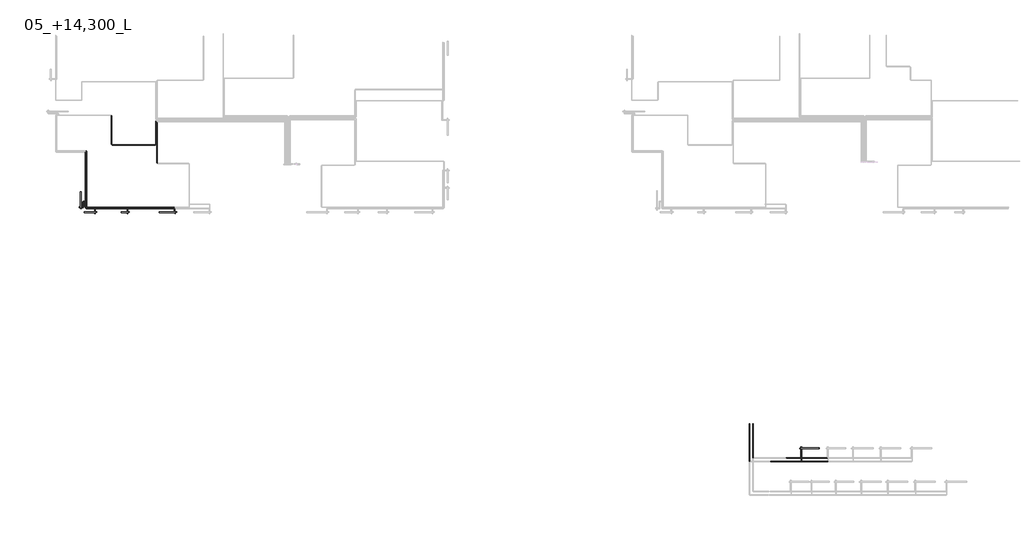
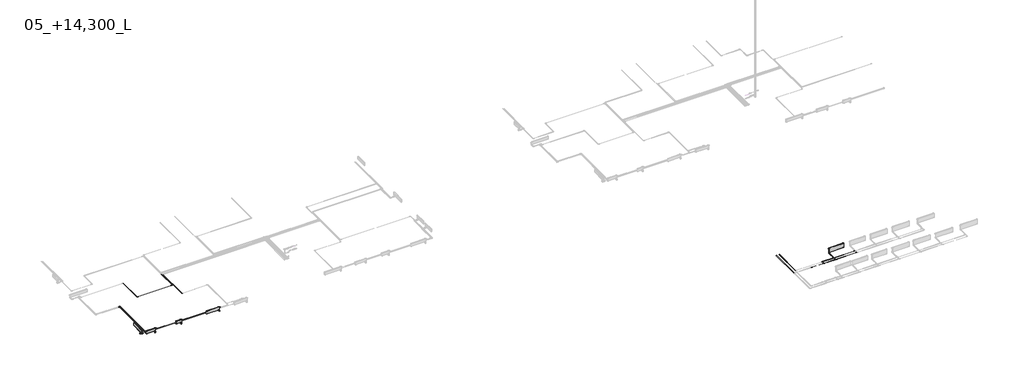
# One storey, part 2 of 15: 34 pipe segments, 28 pipe fittings, 5 proxies, 5 valves.
"""IFC4 building model written with IfcOpenShell, lengths in millimetres."""

from ifc_helpers import new_model, si_unit, point, frame, frame_2d, origin, place, context, project, spatial, circle_curve, trimmed, segment, composite_curve, outline, extrude, transform, mapped, element, save
from components import mechanical_equipment_c68842d5, mechanical_equipment_054ffeb9, mechanical_equipment_feb41a6e, mechanical_equipment_88dabea2, pipe_fitting_44bd76dc, pipe_fitting_f18aa7d6, pipe_fitting_8f811e63, pipe_fitting_d927fdfb, valve_73842d38, valve_5b696a81, valve_8453c3c0, valve_3b1922a4

model = new_model("IFC4")

# Units and contexts
model_context = context("Model", 3, world=origin())
ifc_project = project(units=[si_unit("LENGTHUNIT", "METRE", prefix="MILLI")], contexts=[model_context])

# Site, building, storey
site = spatial("IfcSite", under=ifc_project)
building = spatial("IfcBuilding", under=site)
storey = spatial("IfcBuildingStorey", under=building, Name="05_+14,300_L", Elevation=14300.0)

# Proxies
placement = place(None, origin())
mechanical_equipment_shape = mechanical_equipment_c68842d5(model_context)
element("IfcBuildingElementProxy", 1, Name="EVRA CV Д : 21-300-1400", ObjectType="EVRA CV Д : 21-300-1400", at=placement, inside=storey, context=model_context, shape_type="MappedRepresentation", body=[
    mapped(mechanical_equipment_shape, transform((61.4631102, 113460.2677163, 14300.0), x_axis=(0.0, 1.0, 0.0), y_axis=(-1.0, 0.0, 0.0), z_axis=(0.0, 0.0, 1.0))),
])
element("IfcBuildingElementProxy", 2, Name="EVRA CV Д : 21-300-1400", ObjectType="EVRA CV Д : 21-300-1400", at=placement, inside=storey, context=model_context, shape_type="MappedRepresentation", body=[
    mapped(mechanical_equipment_shape, transform((7800.0, 112561.4631102, 14300.0), x_axis=(-1.0, 0.0, 0.0), y_axis=(0.0, -1.0, 0.0), z_axis=(0.0, 0.0, 1.0))),
])
mechanical_equipment_2_shape = mechanical_equipment_054ffeb9(model_context)
element("IfcBuildingElementProxy", 3, Name="EVRA CV Д : 21-300-1000", ObjectType="EVRA CV Д : 21-300-1000", at=placement, inside=storey, context=model_context, shape_type="MappedRepresentation", body=[
    mapped(mechanical_equipment_2_shape, transform((1080.0, 112561.4631102, 14300.0), x_axis=(-1.0, 0.0, 0.0), y_axis=(0.0, -1.0, 0.0), z_axis=(0.0, 0.0, 1.0))),
])
mechanical_equipment_3_shape = mechanical_equipment_feb41a6e(model_context)
element("IfcBuildingElementProxy", 4, Name="EVRA CV Д : 21-300-600", ObjectType="EVRA CV Д : 21-300-600", at=placement, inside=storey, context=model_context, shape_type="MappedRepresentation", body=[
    mapped(mechanical_equipment_3_shape, transform((4100.0, 112561.4631102, 14300.0), x_axis=(-1.0, 0.0, 0.0), y_axis=(0.0, -1.0, 0.0), z_axis=(0.0, 0.0, 1.0))),
])
mechanical_equipment_4_shape = mechanical_equipment_88dabea2(model_context)
element("IfcBuildingElementProxy", 5, Name="EVRA CV Д : 11-500-1600", ObjectType="EVRA CV Д : 11-500-1600", at=placement, inside=storey, context=model_context, shape_type="MappedRepresentation", body=[
    mapped(mechanical_equipment_4_shape, transform((63135.0, 92114.7933297, 14300.0), x_axis=(1.0, 0.0, 0.0), y_axis=(0.0, 1.0, 0.0), z_axis=(0.0, 0.0, 1.0))),
])

# Pipe fittings
pipe_fitting_shape = pipe_fitting_44bd76dc(model_context)
element("IfcPipeFitting", 6, ObjectType="ADSK_Пресс-фитинг ПЭ_Тройник : Пластик черный", at=placement, inside=storey, context=model_context, shape_type="MappedRepresentation", body=[
    mapped(pipe_fitting_shape, transform((499.9999998, 113540.2677163, 14250.0), x_axis=(0.0, -1.0, 0.0), y_axis=(1.0, 0.0, 0.0), z_axis=(0.0, 0.0, 1.0))),
])
element("IfcPipeFitting", 7, ObjectType="ADSK_Пресс-фитинг ПЭ_Тройник : Пластик черный", at=placement, inside=storey, context=model_context, shape_type="MappedRepresentation", body=[
    mapped(pipe_fitting_shape, transform((599.9999998, 113490.2677163, 14250.0), x_axis=(0.0, -1.0, 0.0), y_axis=(1.0, 0.0, 0.0), z_axis=(0.0, 0.0, 1.0))),
])
element("IfcPipeFitting", 8, ObjectType="ADSK_Пресс-фитинг ПЭ_Тройник : Пластик черный", at=placement, inside=storey, context=model_context, shape_type="MappedRepresentation", body=[
    mapped(pipe_fitting_shape, transform((4170.0, 113000.0, 14250.0), x_axis=(1.0, 0.0, 0.0), y_axis=(0.0, 1.0, 0.0), z_axis=(0.0, 0.0, 1.0))),
])
element("IfcPipeFitting", 9, ObjectType="ADSK_Пресс-фитинг ПЭ_Тройник : Пластик черный", at=placement, inside=storey, context=model_context, shape_type="MappedRepresentation", body=[
    mapped(pipe_fitting_shape, transform((4120.0, 112900.0, 14250.0), x_axis=(1.0, 0.0, 0.0), y_axis=(0.0, 1.0, 0.0), z_axis=(0.0, 0.0, 1.0))),
])
element("IfcPipeFitting", 10, ObjectType="ADSK_Пресс-фитинг ПЭ_Тройник : Пластик черный", at=placement, inside=storey, context=model_context, shape_type="MappedRepresentation", body=[
    mapped(pipe_fitting_shape, transform((1350.0, 113000.0, 14250.0), x_axis=(1.0, 0.0, 0.0), y_axis=(0.0, 1.0, 0.0), z_axis=(0.0, 0.0, 1.0))),
])
element("IfcPipeFitting", 11, ObjectType="ADSK_Пресс-фитинг ПЭ_Тройник : Пластик черный", at=placement, inside=storey, context=model_context, shape_type="MappedRepresentation", body=[
    mapped(pipe_fitting_shape, transform((1300.0, 112900.0, 14250.0), x_axis=(1.0, 0.0, 0.0), y_axis=(0.0, 1.0, 0.0), z_axis=(0.0, 0.0, 1.0))),
])
pipe_fitting_2_shape = pipe_fitting_f18aa7d6(model_context)
element("IfcPipeFitting", 12, ObjectType="ADSK_Пресс-фитинг ПЭ_Муфта соединительная : Пластик черный", at=placement, inside=storey, context=model_context, shape_type="MappedRepresentation", body=[
    mapped(pipe_fitting_2_shape, transform((61315.0, 91249.2564399, 14250.0), x_axis=(-1.0, 0.0, 0.0), y_axis=(0.0, -1.0, 0.0), z_axis=(0.0, 0.0, 1.0))),
])
element("IfcPipeFitting", 13, ObjectType="ADSK_Пресс-фитинг ПЭ_Муфта соединительная : Пластик черный", at=placement, inside=storey, context=model_context, shape_type="MappedRepresentation", body=[
    mapped(pipe_fitting_2_shape, transform((61315.0, 90949.2564399, 14250.0), x_axis=(-1.0, 0.0, 0.0), y_axis=(0.0, -1.0, 0.0), z_axis=(0.0, 0.0, 1.0))),
])
pipe_fitting_3_shape = pipe_fitting_8f811e63(model_context)
element("IfcPipeFitting", 14, ObjectType="ADSK_Пресс-фитинг ПЭ_Поворот с фиксатором : Поворот трубы", at=placement, inside=storey, context=model_context, shape_type="MappedRepresentation", body=[
    mapped(pipe_fitting_3_shape, transform((599.9999998, 113000.0, 14250.0), x_axis=(0.0, -1.0, 0.0), y_axis=(1.0, 0.0, 0.0), z_axis=(0.0, 0.0, 1.0))),
])
element("IfcPipeFitting", 15, ObjectType="ADSK_Пресс-фитинг ПЭ_Поворот с фиксатором : Поворот трубы", at=placement, inside=storey, context=model_context, shape_type="MappedRepresentation", body=[
    mapped(pipe_fitting_3_shape, transform((499.9999998, 112900.0, 14250.0), x_axis=(0.0, -1.0, 0.0), y_axis=(1.0, 0.0, 0.0), z_axis=(0.0, 0.0, 1.0))),
])
element("IfcPipeFitting", 16, ObjectType="ADSK_Пресс-фитинг ПЭ_Поворот с фиксатором : Поворот трубы", at=placement, inside=storey, context=model_context, shape_type="MappedRepresentation", body=[
    mapped(pipe_fitting_3_shape, transform((277.0, 113540.2677163, 14250.0), x_axis=(-1.0, 0.0, 0.0), y_axis=(0.0, -1.0, 0.0), z_axis=(0.0, 0.0, 1.0))),
])
element("IfcPipeFitting", 17, ObjectType="ADSK_Пресс-фитинг ПЭ_Поворот с фиксатором : Поворот трубы", at=placement, inside=storey, context=model_context, shape_type="MappedRepresentation", body=[
    mapped(pipe_fitting_3_shape, transform((327.0, 113490.2677163, 14250.0), x_axis=(-1.0, 0.0, 0.0), y_axis=(0.0, -1.0, 0.0), z_axis=(0.0, 0.0, 1.0))),
])
element("IfcPipeFitting", 18, ObjectType="ADSK_Пресс-фитинг ПЭ_Поворот с фиксатором : Поворот трубы", at=placement, inside=storey, context=model_context, shape_type="MappedRepresentation", body=[
    mapped(pipe_fitting_3_shape, transform((6700.0, 116805.0000002, 14250.0), x_axis=(0.0, -1.0, 0.0), y_axis=(1.0, 0.0, 0.0), z_axis=(0.0, 0.0, 1.0))),
])
element("IfcPipeFitting", 19, ObjectType="ADSK_Пресс-фитинг ПЭ_Поворот с фиксатором : Поворот трубы", at=placement, inside=storey, context=model_context, shape_type="MappedRepresentation", body=[
    mapped(pipe_fitting_3_shape, transform((6600.0, 118420.0, 14250.0), x_axis=(1.0, 0.0, 0.0), y_axis=(0.0, 1.0, 0.0), z_axis=(0.0, 0.0, 1.0))),
])
element("IfcPipeFitting", 20, ObjectType="ADSK_Пресс-фитинг ПЭ_Поворот с фиксатором : Поворот трубы", at=placement, inside=storey, context=model_context, shape_type="MappedRepresentation", body=[
    mapped(pipe_fitting_3_shape, transform((2749.0000003, 118420.0, 14250.0), x_axis=(0.0, -1.0, 0.0), y_axis=(1.0, 0.0, 0.0), z_axis=(0.0, 0.0, 1.0))),
])
element("IfcPipeFitting", 21, ObjectType="ADSK_Пресс-фитинг ПЭ_Поворот с фиксатором : Поворот трубы", at=placement, inside=storey, context=model_context, shape_type="MappedRepresentation", body=[
    mapped(pipe_fitting_3_shape, transform((499.9999998, 117800.0000002, 14250.0), x_axis=(0.0, 1.0, 0.0), y_axis=(-1.0, 0.0, 0.0), z_axis=(0.0, 0.0, 1.0))),
])
element("IfcPipeFitting", 22, ObjectType="ADSK_Пресс-фитинг ПЭ_Поворот с фиксатором : Поворот трубы", at=placement, inside=storey, context=model_context, shape_type="MappedRepresentation", body=[
    mapped(pipe_fitting_3_shape, transform((599.9999998, 117900.0000002, 14250.0), x_axis=(0.0, 1.0, 0.0), y_axis=(-1.0, 0.0, 0.0), z_axis=(0.0, 0.0, 1.0))),
])
element("IfcPipeFitting", 23, ObjectType="ADSK_Пресс-фитинг ПЭ_Поворот с фиксатором : Поворот трубы", at=placement, inside=storey, context=model_context, shape_type="MappedRepresentation", body=[
    mapped(pipe_fitting_3_shape, transform((277.0, 113040.2677163, 14250.0), x_axis=(1.0, 0.0, 0.0), y_axis=(0.0, 1.0, 0.0), z_axis=(0.0, 0.0, 1.0))),
])
element("IfcPipeFitting", 24, ObjectType="ADSK_Пресс-фитинг ПЭ_Поворот с фиксатором : Поворот трубы", at=placement, inside=storey, context=model_context, shape_type="MappedRepresentation", body=[
    mapped(pipe_fitting_3_shape, transform((327.0, 112990.2677163, 14250.0), x_axis=(1.0, 0.0, 0.0), y_axis=(0.0, 1.0, 0.0), z_axis=(0.0, 0.0, 1.0))),
])
pipe_fitting_4_shape = pipe_fitting_d927fdfb(model_context)
element("IfcPipeFitting", 25, ObjectType="Трубка Г-образная VTm.481.PC из стены : VTm.481.PC", at=placement, inside=storey, context=model_context, shape_type="MappedRepresentation", body=[
    mapped(pipe_fitting_4_shape, transform((1350.0, 112512.0, 14250.0), x_axis=(-1.0, 0.0, 0.0), y_axis=(0.0, -1.0, 0.0), z_axis=(0.0, 0.0, 1.0))),
])
element("IfcPipeFitting", 26, ObjectType="Трубка Г-образная VTm.481.PC из стены : VTm.481.PC", at=placement, inside=storey, context=model_context, shape_type="MappedRepresentation", body=[
    mapped(pipe_fitting_4_shape, transform((12.0, 112990.2677163, 14250.0), x_axis=(0.0, 1.0, 0.0), y_axis=(-1.0, 0.0, 0.0), z_axis=(0.0, 0.0, 1.0))),
])
element("IfcPipeFitting", 27, ObjectType="Трубка Г-образная VTm.481.PC из стены : VTm.481.PC", at=placement, inside=storey, context=model_context, shape_type="MappedRepresentation", body=[
    mapped(pipe_fitting_4_shape, transform((8270.0, 112512.0, 14250.0), x_axis=(-1.0, 0.0, 0.0), y_axis=(0.0, -1.0, 0.0), z_axis=(0.0, 0.0, 1.0))),
])
element("IfcPipeFitting", 28, ObjectType="Трубка Г-образная VTm.481.PC из стены : VTm.481.PC", at=placement, inside=storey, context=model_context, shape_type="MappedRepresentation", body=[
    mapped(pipe_fitting_4_shape, transform((4170.0, 112512.0, 14250.0), x_axis=(-1.0, 0.0, 0.0), y_axis=(0.0, -1.0, 0.0), z_axis=(0.0, 0.0, 1.0))),
])
element("IfcPipeFitting", 29, ObjectType="Трубка Г-образная VTm.481.PC из стены : VTm.481.PC", at=placement, inside=storey, context=model_context, shape_type="MappedRepresentation", body=[
    mapped(pipe_fitting_4_shape, transform((12.0, 113040.2677163, 14250.0), x_axis=(0.0, 1.0, 0.0), y_axis=(-1.0, 0.0, 0.0), z_axis=(0.0, 0.0, 1.0))),
])
element("IfcPipeFitting", 30, ObjectType="Трубка Г-образная VTm.481.PC из стены : VTm.481.PC", at=placement, inside=storey, context=model_context, shape_type="MappedRepresentation", body=[
    mapped(pipe_fitting_4_shape, transform((1300.0, 112512.0, 14250.0), x_axis=(-1.0, 0.0, 0.0), y_axis=(0.0, -1.0, 0.0), z_axis=(0.0, 0.0, 1.0))),
])
element("IfcPipeFitting", 31, ObjectType="Трубка Г-образная VTm.481.PC из стены : VTm.481.PC", at=placement, inside=storey, context=model_context, shape_type="MappedRepresentation", body=[
    mapped(pipe_fitting_4_shape, transform((4120.0, 112512.0, 14250.0), x_axis=(-1.0, 0.0, 0.0), y_axis=(0.0, -1.0, 0.0), z_axis=(0.0, 0.0, 1.0))),
])
element("IfcPipeFitting", 32, ObjectType="Трубка Г-образная VTm.481.PC из стены : VTm.481.PC", at=placement, inside=storey, context=model_context, shape_type="MappedRepresentation", body=[
    mapped(pipe_fitting_4_shape, transform((62565.0, 92164.2564399, 14250.0), x_axis=(1.0, 0.0, 0.0), y_axis=(0.0, 1.0, 0.0), z_axis=(0.0, 0.0, 1.0))),
])
element("IfcPipeFitting", 33, ObjectType="Трубка Г-образная VTm.481.PC из стены : VTm.481.PC", at=placement, inside=storey, context=model_context, shape_type="MappedRepresentation", body=[
    mapped(pipe_fitting_4_shape, transform((62615.0, 92164.2564399, 14250.0), x_axis=(1.0, 0.0, 0.0), y_axis=(0.0, 1.0, 0.0), z_axis=(0.0, 0.0, 1.0))),
])

# Pipe segments
element("IfcPipeSegment", 34, ObjectType="ADSK_Полиэтилен сшитый", at=placement, inside=storey, context=model_context, shape_type="SweptSolid", body=[
    extrude(outline(composite_curve([segment(trimmed(circle_curve(frame_2d((14250.0, 499.9999998)), 8.0), [point((14250.0, 491.9999998))], [point((14242.0, 499.9999998))], False, "CARTESIAN"), True, "CONTINUOUS"), segment(trimmed(circle_curve(frame_2d((14250.0, 499.9999998)), 8.0), [point((14242.0, 499.9999998))], [point((14250.0, 507.9999998))], False, "CARTESIAN"), True, "CONTINUOUS"), segment(trimmed(circle_curve(frame_2d((14250.0, 499.9999998)), 8.0), [point((14250.0, 507.9999998))], [point((14258.0, 499.9999998))], False, "CARTESIAN"), True, "CONTINUOUS"), segment(trimmed(circle_curve(frame_2d((14250.0, 499.9999998)), 8.0), [point((14258.0, 499.9999998))], [point((14250.0, 491.9999998))], False, "CARTESIAN"), True, "CONTINUOUS")], self_intersect=False)), frame((0.0, 112948.0, 0.0), z_axis=(0.0, 1.0, 0.0), x_axis=(0.0, 0.0, 1.0)), (0.0, 0.0, 1.0), 573.2677163),
])
element("IfcPipeSegment", 35, ObjectType="ADSK_Полиэтилен сшитый", at=placement, inside=storey, context=model_context, shape_type="SweptSolid", body=[
    extrude(outline(composite_curve([segment(trimmed(circle_curve(frame_2d((14250.0, 6600.0)), 8.0), [point((14250.0, 6592.0))], [point((14242.0, 6600.0))], False, "CARTESIAN"), True, "CONTINUOUS"), segment(trimmed(circle_curve(frame_2d((14250.0, 6600.0)), 8.0), [point((14242.0, 6600.0))], [point((14250.0, 6608.0))], False, "CARTESIAN"), True, "CONTINUOUS"), segment(trimmed(circle_curve(frame_2d((14250.0, 6600.0)), 8.0), [point((14250.0, 6608.0))], [point((14258.0, 6600.0))], False, "CARTESIAN"), True, "CONTINUOUS"), segment(trimmed(circle_curve(frame_2d((14250.0, 6600.0)), 8.0), [point((14258.0, 6600.0))], [point((14250.0, 6592.0))], False, "CARTESIAN"), True, "CONTINUOUS")], self_intersect=False)), frame((0.0, 118468.0, 0.0), z_axis=(0.0, 1.0, 0.0), x_axis=(0.0, 0.0, 1.0)), (0.0, 0.0, 1.0), 2005.8369308),
])
element("IfcPipeSegment", 36, ObjectType="ADSK_Полиэтилен сшитый", at=placement, inside=storey, context=model_context, shape_type="SweptSolid", body=[
    extrude(outline(composite_curve([segment(trimmed(circle_curve(frame_2d((14250.0, 6700.0)), 8.0), [point((14250.0, 6692.0))], [point((14242.0, 6700.0))], False, "CARTESIAN"), True, "CONTINUOUS"), segment(trimmed(circle_curve(frame_2d((14250.0, 6700.0)), 8.0), [point((14242.0, 6700.0))], [point((14250.0, 6708.0))], False, "CARTESIAN"), True, "CONTINUOUS"), segment(trimmed(circle_curve(frame_2d((14250.0, 6700.0)), 8.0), [point((14250.0, 6708.0))], [point((14258.0, 6700.0))], False, "CARTESIAN"), True, "CONTINUOUS"), segment(trimmed(circle_curve(frame_2d((14250.0, 6700.0)), 8.0), [point((14258.0, 6700.0))], [point((14250.0, 6692.0))], False, "CARTESIAN"), True, "CONTINUOUS")], self_intersect=False)), frame((0.0, 116853.0000002, 0.0), z_axis=(0.0, 1.0, 0.0), x_axis=(0.0, 0.0, 1.0)), (0.0, 0.0, 1.0), 3520.8369306),
])
element("IfcPipeSegment", 37, ObjectType="ADSK_Полиэтилен сшитый", at=placement, inside=storey, context=model_context, shape_type="SweptSolid", body=[
    extrude(outline(composite_curve([segment(trimmed(circle_curve(frame_2d((14250.0, 8220.0)), 8.0), [point((14250.0, 8212.0))], [point((14242.0, 8220.0))], False, "CARTESIAN"), True, "CONTINUOUS"), segment(trimmed(circle_curve(frame_2d((14250.0, 8220.0)), 8.0), [point((14242.0, 8220.0))], [point((14250.0, 8228.0))], False, "CARTESIAN"), True, "CONTINUOUS"), segment(trimmed(circle_curve(frame_2d((14250.0, 8220.0)), 8.0), [point((14250.0, 8228.0))], [point((14258.0, 8220.0))], False, "CARTESIAN"), True, "CONTINUOUS"), segment(trimmed(circle_curve(frame_2d((14250.0, 8220.0)), 8.0), [point((14258.0, 8220.0))], [point((14250.0, 8212.0))], False, "CARTESIAN"), True, "CONTINUOUS")], self_intersect=False)), frame((0.0, 112627.0, 0.0), z_axis=(0.0, 1.0, 0.0), x_axis=(0.0, 0.0, 1.0)), (0.0, 0.0, 1.0), 249.0),
])
element("IfcPipeSegment", 38, ObjectType="ADSK_Полиэтилен сшитый", at=placement, inside=storey, context=model_context, shape_type="SweptSolid", body=[
    extrude(outline(composite_curve([segment(trimmed(circle_curve(frame_2d((14250.0, 1350.0)), 8.0), [point((14250.0, 1342.0))], [point((14242.0, 1350.0))], False, "CARTESIAN"), True, "CONTINUOUS"), segment(trimmed(circle_curve(frame_2d((14250.0, 1350.0)), 8.0), [point((14242.0, 1350.0))], [point((14250.0, 1358.0))], False, "CARTESIAN"), True, "CONTINUOUS"), segment(trimmed(circle_curve(frame_2d((14250.0, 1350.0)), 8.0), [point((14250.0, 1358.0))], [point((14258.0, 1350.0))], False, "CARTESIAN"), True, "CONTINUOUS"), segment(trimmed(circle_curve(frame_2d((14250.0, 1350.0)), 8.0), [point((14258.0, 1350.0))], [point((14250.0, 1342.0))], False, "CARTESIAN"), True, "CONTINUOUS")], self_intersect=False)), frame((0.0, 112627.0, 0.0), z_axis=(0.0, 1.0, 0.0), x_axis=(0.0, 0.0, 1.0)), (0.0, 0.0, 1.0), 349.0),
])
element("IfcPipeSegment", 39, ObjectType="ADSK_Полиэтилен сшитый", at=placement, inside=storey, context=model_context, shape_type="SweptSolid", body=[
    extrude(outline(composite_curve([segment(trimmed(circle_curve(frame_2d((113000.0, 14250.0)), 8.0), [point((113008.0, 14250.0))], [point((113000.0, 14242.0))], False, "CARTESIAN"), True, "CONTINUOUS"), segment(trimmed(circle_curve(frame_2d((113000.0, 14250.0)), 8.0), [point((113000.0, 14242.0))], [point((112992.0, 14250.0))], False, "CARTESIAN"), True, "CONTINUOUS"), segment(trimmed(circle_curve(frame_2d((113000.0, 14250.0)), 8.0), [point((112992.0, 14250.0))], [point((113000.0, 14258.0))], False, "CARTESIAN"), True, "CONTINUOUS"), segment(trimmed(circle_curve(frame_2d((113000.0, 14250.0)), 8.0), [point((113000.0, 14258.0))], [point((113008.0, 14250.0))], False, "CARTESIAN"), True, "CONTINUOUS")], self_intersect=False)), frame((647.9999998, 0.0, 0.0), z_axis=(1.0, 0.0, 0.0), x_axis=(0.0, 1.0, 0.0)), (0.0, 0.0, 1.0), 682.0000002),
])
element("IfcPipeSegment", 40, ObjectType="ADSK_Полиэтилен сшитый", at=placement, inside=storey, context=model_context, shape_type="SweptSolid", body=[
    extrude(outline(composite_curve([segment(trimmed(circle_curve(frame_2d((14250.0, 1300.0)), 8.0), [point((14250.0, 1292.0))], [point((14242.0, 1300.0))], False, "CARTESIAN"), True, "CONTINUOUS"), segment(trimmed(circle_curve(frame_2d((14250.0, 1300.0)), 8.0), [point((14242.0, 1300.0))], [point((14250.0, 1308.0))], False, "CARTESIAN"), True, "CONTINUOUS"), segment(trimmed(circle_curve(frame_2d((14250.0, 1300.0)), 8.0), [point((14250.0, 1308.0))], [point((14258.0, 1300.0))], False, "CARTESIAN"), True, "CONTINUOUS"), segment(trimmed(circle_curve(frame_2d((14250.0, 1300.0)), 8.0), [point((14258.0, 1300.0))], [point((14250.0, 1292.0))], False, "CARTESIAN"), True, "CONTINUOUS")], self_intersect=False)), frame((0.0, 112627.0, 0.0), z_axis=(0.0, 1.0, 0.0), x_axis=(0.0, 0.0, 1.0)), (0.0, 0.0, 1.0), 249.0),
])
element("IfcPipeSegment", 41, ObjectType="ADSK_Полиэтилен сшитый", at=placement, inside=storey, context=model_context, shape_type="SweptSolid", body=[
    extrude(outline(composite_curve([segment(trimmed(circle_curve(frame_2d((113040.2677163, 14250.0)), 8.0), [point((113048.2677163, 14250.0))], [point((113040.2677163, 14242.0))], False, "CARTESIAN"), True, "CONTINUOUS"), segment(trimmed(circle_curve(frame_2d((113040.2677163, 14250.0)), 8.0), [point((113040.2677163, 14242.0))], [point((113032.2677163, 14250.0))], False, "CARTESIAN"), True, "CONTINUOUS"), segment(trimmed(circle_curve(frame_2d((113040.2677163, 14250.0)), 8.0), [point((113032.2677163, 14250.0))], [point((113040.2677163, 14258.0))], False, "CARTESIAN"), True, "CONTINUOUS"), segment(trimmed(circle_curve(frame_2d((113040.2677163, 14250.0)), 8.0), [point((113040.2677163, 14258.0))], [point((113048.2677163, 14250.0))], False, "CARTESIAN"), True, "CONTINUOUS")], self_intersect=False)), frame((127.0, 0.0, 0.0), z_axis=(1.0, 0.0, 0.0), x_axis=(0.0, 1.0, 0.0)), (0.0, 0.0, 1.0), 102.0),
])
element("IfcPipeSegment", 42, ObjectType="ADSK_Полиэтилен сшитый", at=placement, inside=storey, context=model_context, shape_type="SweptSolid", body=[
    extrude(outline(composite_curve([segment(trimmed(circle_curve(frame_2d((14250.0, 277.0)), 8.0), [point((14250.0, 285.0))], [point((14258.0, 277.0))], False, "CARTESIAN"), True, "CONTINUOUS"), segment(trimmed(circle_curve(frame_2d((14250.0, 277.0)), 8.0), [point((14258.0, 277.0))], [point((14250.0, 269.0))], False, "CARTESIAN"), True, "CONTINUOUS"), segment(trimmed(circle_curve(frame_2d((14250.0, 277.0)), 8.0), [point((14250.0, 269.0))], [point((14242.0, 277.0))], False, "CARTESIAN"), True, "CONTINUOUS"), segment(trimmed(circle_curve(frame_2d((14250.0, 277.0)), 8.0), [point((14242.0, 277.0))], [point((14250.0, 285.0))], False, "CARTESIAN"), True, "CONTINUOUS")], self_intersect=False)), frame((0.0, 113088.2677163, 0.0), z_axis=(0.0, 1.0, 0.0), x_axis=(0.0, 0.0, 1.0)), (0.0, 0.0, 1.0), 404.0),
])
element("IfcPipeSegment", 43, ObjectType="ADSK_Полиэтилен сшитый", at=placement, inside=storey, context=model_context, shape_type="SweptSolid", body=[
    extrude(outline(composite_curve([segment(trimmed(circle_curve(frame_2d((113540.2677163, 14250.0)), 8.0), [point((113548.2677163, 14250.0))], [point((113540.2677163, 14242.0))], False, "CARTESIAN"), True, "CONTINUOUS"), segment(trimmed(circle_curve(frame_2d((113540.2677163, 14250.0)), 8.0), [point((113540.2677163, 14242.0))], [point((113532.2677163, 14250.0))], False, "CARTESIAN"), True, "CONTINUOUS"), segment(trimmed(circle_curve(frame_2d((113540.2677163, 14250.0)), 8.0), [point((113532.2677163, 14250.0))], [point((113540.2677163, 14258.0))], False, "CARTESIAN"), True, "CONTINUOUS"), segment(trimmed(circle_curve(frame_2d((113540.2677163, 14250.0)), 8.0), [point((113540.2677163, 14258.0))], [point((113548.2677163, 14250.0))], False, "CARTESIAN"), True, "CONTINUOUS")], self_intersect=False)), frame((325.0, 0.0, 0.0), z_axis=(1.0, 0.0, 0.0), x_axis=(0.0, 1.0, 0.0)), (0.0, 0.0, 1.0), 148.9999998),
])
element("IfcPipeSegment", 44, ObjectType="ADSK_Полиэтилен сшитый", at=placement, inside=storey, context=model_context, shape_type="SweptSolid", body=[
    extrude(outline(composite_curve([segment(trimmed(circle_curve(frame_2d((112990.2677163, 14250.0)), 8.0), [point((112998.2677163, 14250.0))], [point((112990.2677163, 14242.0))], False, "CARTESIAN"), True, "CONTINUOUS"), segment(trimmed(circle_curve(frame_2d((112990.2677163, 14250.0)), 8.0), [point((112990.2677163, 14242.0))], [point((112982.2677163, 14250.0))], False, "CARTESIAN"), True, "CONTINUOUS"), segment(trimmed(circle_curve(frame_2d((112990.2677163, 14250.0)), 8.0), [point((112982.2677163, 14250.0))], [point((112990.2677163, 14258.0))], False, "CARTESIAN"), True, "CONTINUOUS"), segment(trimmed(circle_curve(frame_2d((112990.2677163, 14250.0)), 8.0), [point((112990.2677163, 14258.0))], [point((112998.2677163, 14250.0))], False, "CARTESIAN"), True, "CONTINUOUS")], self_intersect=False)), frame((127.0, 0.0, 0.0), z_axis=(1.0, 0.0, 0.0), x_axis=(0.0, 1.0, 0.0)), (0.0, 0.0, 1.0), 152.0),
])
element("IfcPipeSegment", 45, ObjectType="ADSK_Полиэтилен сшитый", at=placement, inside=storey, context=model_context, shape_type="SweptSolid", body=[
    extrude(outline(composite_curve([segment(trimmed(circle_curve(frame_2d((14250.0, 327.0)), 8.0), [point((14250.0, 335.0))], [point((14258.0, 327.0))], False, "CARTESIAN"), True, "CONTINUOUS"), segment(trimmed(circle_curve(frame_2d((14250.0, 327.0)), 8.0), [point((14258.0, 327.0))], [point((14250.0, 319.0))], False, "CARTESIAN"), True, "CONTINUOUS"), segment(trimmed(circle_curve(frame_2d((14250.0, 327.0)), 8.0), [point((14250.0, 319.0))], [point((14242.0, 327.0))], False, "CARTESIAN"), True, "CONTINUOUS"), segment(trimmed(circle_curve(frame_2d((14250.0, 327.0)), 8.0), [point((14242.0, 327.0))], [point((14250.0, 335.0))], False, "CARTESIAN"), True, "CONTINUOUS")], self_intersect=False)), frame((0.0, 113038.2677163, 0.0), z_axis=(0.0, 1.0, 0.0), x_axis=(0.0, 0.0, 1.0)), (0.0, 0.0, 1.0), 404.0),
])
element("IfcPipeSegment", 46, ObjectType="ADSK_Полиэтилен сшитый", at=placement, inside=storey, context=model_context, shape_type="SweptSolid", body=[
    extrude(outline(composite_curve([segment(trimmed(circle_curve(frame_2d((113490.2677163, 14250.0)), 8.0), [point((113498.2677163, 14250.0))], [point((113490.2677163, 14242.0))], False, "CARTESIAN"), True, "CONTINUOUS"), segment(trimmed(circle_curve(frame_2d((113490.2677163, 14250.0)), 8.0), [point((113490.2677163, 14242.0))], [point((113482.2677163, 14250.0))], False, "CARTESIAN"), True, "CONTINUOUS"), segment(trimmed(circle_curve(frame_2d((113490.2677163, 14250.0)), 8.0), [point((113482.2677163, 14250.0))], [point((113490.2677163, 14258.0))], False, "CARTESIAN"), True, "CONTINUOUS"), segment(trimmed(circle_curve(frame_2d((113490.2677163, 14250.0)), 8.0), [point((113490.2677163, 14258.0))], [point((113498.2677163, 14250.0))], False, "CARTESIAN"), True, "CONTINUOUS")], self_intersect=False)), frame((375.0, 0.0, 0.0), z_axis=(1.0, 0.0, 0.0), x_axis=(0.0, 1.0, 0.0)), (0.0, 0.0, 1.0), 198.9999998),
])
element("IfcPipeSegment", 47, ObjectType="ADSK_Полиэтилен сшитый", at=placement, inside=storey, context=model_context, shape_type="SweptSolid", body=[
    extrude(outline(composite_curve([segment(trimmed(circle_curve(frame_2d((14250.0, 599.9999998)), 8.0), [point((14250.0, 607.9999998))], [point((14258.0, 599.9999998))], False, "CARTESIAN"), True, "CONTINUOUS"), segment(trimmed(circle_curve(frame_2d((14250.0, 599.9999998)), 8.0), [point((14258.0, 599.9999998))], [point((14250.0, 591.9999998))], False, "CARTESIAN"), True, "CONTINUOUS"), segment(trimmed(circle_curve(frame_2d((14250.0, 599.9999998)), 8.0), [point((14250.0, 591.9999998))], [point((14242.0, 599.9999998))], False, "CARTESIAN"), True, "CONTINUOUS"), segment(trimmed(circle_curve(frame_2d((14250.0, 599.9999998)), 8.0), [point((14242.0, 599.9999998))], [point((14250.0, 607.9999998))], False, "CARTESIAN"), True, "CONTINUOUS")], self_intersect=False)), frame((0.0, 113048.0, 0.0), z_axis=(0.0, 1.0, 0.0), x_axis=(0.0, 0.0, 1.0)), (0.0, 0.0, 1.0), 423.2677163),
])
element("IfcPipeSegment", 48, ObjectType="ADSK_Полиэтилен сшитый", at=placement, inside=storey, context=model_context, shape_type="SweptSolid", body=[
    extrude(outline(composite_curve([segment(trimmed(circle_curve(frame_2d((14250.0, 499.9999998)), 8.0), [point((14250.0, 491.9999998))], [point((14242.0, 499.9999998))], False, "CARTESIAN"), True, "CONTINUOUS"), segment(trimmed(circle_curve(frame_2d((14250.0, 499.9999998)), 8.0), [point((14242.0, 499.9999998))], [point((14250.0, 507.9999998))], False, "CARTESIAN"), True, "CONTINUOUS"), segment(trimmed(circle_curve(frame_2d((14250.0, 499.9999998)), 8.0), [point((14250.0, 507.9999998))], [point((14258.0, 499.9999998))], False, "CARTESIAN"), True, "CONTINUOUS"), segment(trimmed(circle_curve(frame_2d((14250.0, 499.9999998)), 8.0), [point((14258.0, 499.9999998))], [point((14250.0, 491.9999998))], False, "CARTESIAN"), True, "CONTINUOUS")], self_intersect=False)), frame((0.0, 113559.2677163, 0.0), z_axis=(0.0, 1.0, 0.0), x_axis=(0.0, 0.0, 1.0)), (0.0, 0.0, 1.0), 4192.7322839),
])
element("IfcPipeSegment", 49, ObjectType="ADSK_Полиэтилен сшитый", at=placement, inside=storey, context=model_context, shape_type="SweptSolid", body=[
    extrude(outline(composite_curve([segment(trimmed(circle_curve(frame_2d((14250.0, 599.9999998)), 8.0), [point((14250.0, 591.9999998))], [point((14242.0, 599.9999998))], False, "CARTESIAN"), True, "CONTINUOUS"), segment(trimmed(circle_curve(frame_2d((14250.0, 599.9999998)), 8.0), [point((14242.0, 599.9999998))], [point((14250.0, 607.9999998))], False, "CARTESIAN"), True, "CONTINUOUS"), segment(trimmed(circle_curve(frame_2d((14250.0, 599.9999998)), 8.0), [point((14250.0, 607.9999998))], [point((14258.0, 599.9999998))], False, "CARTESIAN"), True, "CONTINUOUS"), segment(trimmed(circle_curve(frame_2d((14250.0, 599.9999998)), 8.0), [point((14258.0, 599.9999998))], [point((14250.0, 591.9999998))], False, "CARTESIAN"), True, "CONTINUOUS")], self_intersect=False)), frame((0.0, 113509.2677163, 0.0), z_axis=(0.0, 1.0, 0.0), x_axis=(0.0, 0.0, 1.0)), (0.0, 0.0, 1.0), 4342.7322839),
])
element("IfcPipeSegment", 50, ObjectType="ADSK_Полиэтилен сшитый", at=placement, inside=storey, context=model_context, shape_type="SweptSolid", body=[
    extrude(outline(composite_curve([segment(trimmed(circle_curve(frame_2d((118420.0, 14250.0)), 8.0), [point((118428.0, 14250.0))], [point((118420.0, 14242.0))], False, "CARTESIAN"), True, "CONTINUOUS"), segment(trimmed(circle_curve(frame_2d((118420.0, 14250.0)), 8.0), [point((118420.0, 14242.0))], [point((118412.0, 14250.0))], False, "CARTESIAN"), True, "CONTINUOUS"), segment(trimmed(circle_curve(frame_2d((118420.0, 14250.0)), 8.0), [point((118412.0, 14250.0))], [point((118420.0, 14258.0))], False, "CARTESIAN"), True, "CONTINUOUS"), segment(trimmed(circle_curve(frame_2d((118420.0, 14250.0)), 8.0), [point((118420.0, 14258.0))], [point((118428.0, 14250.0))], False, "CARTESIAN"), True, "CONTINUOUS")], self_intersect=False)), frame((2797.0000003, 0.0, 0.0), z_axis=(1.0, 0.0, 0.0), x_axis=(0.0, 1.0, 0.0)), (0.0, 0.0, 1.0), 3754.9999997),
])
element("IfcPipeSegment", 51, ObjectType="ADSK_Полиэтилен сшитый", at=placement, inside=storey, context=model_context, shape_type="SweptSolid", body=[
    extrude(outline(composite_curve([segment(trimmed(circle_curve(frame_2d((14250.0, 2749.0000003)), 8.0), [point((14250.0, 2757.0000003))], [point((14258.0, 2749.0000003))], False, "CARTESIAN"), True, "CONTINUOUS"), segment(trimmed(circle_curve(frame_2d((14250.0, 2749.0000003)), 8.0), [point((14258.0, 2749.0000003))], [point((14250.0, 2741.0000003))], False, "CARTESIAN"), True, "CONTINUOUS"), segment(trimmed(circle_curve(frame_2d((14250.0, 2749.0000003)), 8.0), [point((14250.0, 2741.0000003))], [point((14242.0, 2749.0000003))], False, "CARTESIAN"), True, "CONTINUOUS"), segment(trimmed(circle_curve(frame_2d((14250.0, 2749.0000003)), 8.0), [point((14242.0, 2749.0000003))], [point((14250.0, 2757.0000003))], False, "CARTESIAN"), True, "CONTINUOUS")], self_intersect=False)), frame((0.0, 118468.0, 0.0), z_axis=(0.0, 1.0, 0.0), x_axis=(0.0, 0.0, 1.0)), (0.0, 0.0, 1.0), 2484.0000002),
])
element("IfcPipeSegment", 52, ObjectType="ADSK_Полиэтилен сшитый", at=placement, inside=storey, context=model_context, shape_type="SweptSolid", body=[
    extrude(outline(composite_curve([segment(trimmed(circle_curve(frame_2d((112900.0, 14250.0)), 8.0), [point((112892.0, 14250.0))], [point((112900.0, 14258.0))], False, "CARTESIAN"), True, "CONTINUOUS"), segment(trimmed(circle_curve(frame_2d((112900.0, 14250.0)), 8.0), [point((112900.0, 14258.0))], [point((112908.0, 14250.0))], False, "CARTESIAN"), True, "CONTINUOUS"), segment(trimmed(circle_curve(frame_2d((112900.0, 14250.0)), 8.0), [point((112908.0, 14250.0))], [point((112900.0, 14242.0))], False, "CARTESIAN"), True, "CONTINUOUS"), segment(trimmed(circle_curve(frame_2d((112900.0, 14250.0)), 8.0), [point((112900.0, 14242.0))], [point((112892.0, 14250.0))], False, "CARTESIAN"), True, "CONTINUOUS")], self_intersect=False)), frame((4140.0, 0.0, 0.0), z_axis=(1.0, 0.0, 0.0), x_axis=(0.0, 1.0, 0.0)), (0.0, 0.0, 1.0), 4060.0),
])
element("IfcPipeSegment", 53, ObjectType="ADSK_Полиэтилен сшитый", at=placement, inside=storey, context=model_context, shape_type="SweptSolid", body=[
    extrude(outline(composite_curve([segment(trimmed(circle_curve(frame_2d((14250.0, 4170.0)), 8.0), [point((14250.0, 4162.0))], [point((14242.0, 4170.0))], False, "CARTESIAN"), True, "CONTINUOUS"), segment(trimmed(circle_curve(frame_2d((14250.0, 4170.0)), 8.0), [point((14242.0, 4170.0))], [point((14250.0, 4178.0))], False, "CARTESIAN"), True, "CONTINUOUS"), segment(trimmed(circle_curve(frame_2d((14250.0, 4170.0)), 8.0), [point((14250.0, 4178.0))], [point((14258.0, 4170.0))], False, "CARTESIAN"), True, "CONTINUOUS"), segment(trimmed(circle_curve(frame_2d((14250.0, 4170.0)), 8.0), [point((14258.0, 4170.0))], [point((14250.0, 4162.0))], False, "CARTESIAN"), True, "CONTINUOUS")], self_intersect=False)), frame((0.0, 112627.0, 0.0), z_axis=(0.0, 1.0, 0.0), x_axis=(0.0, 0.0, 1.0)), (0.0, 0.0, 1.0), 349.0),
])
element("IfcPipeSegment", 54, ObjectType="ADSK_Полиэтилен сшитый", at=placement, inside=storey, context=model_context, shape_type="SweptSolid", body=[
    extrude(outline(composite_curve([segment(trimmed(circle_curve(frame_2d((113000.0, 14250.0)), 8.0), [point((113008.0, 14250.0))], [point((113000.0, 14242.0))], False, "CARTESIAN"), True, "CONTINUOUS"), segment(trimmed(circle_curve(frame_2d((113000.0, 14250.0)), 8.0), [point((113000.0, 14242.0))], [point((112992.0, 14250.0))], False, "CARTESIAN"), True, "CONTINUOUS"), segment(trimmed(circle_curve(frame_2d((113000.0, 14250.0)), 8.0), [point((112992.0, 14250.0))], [point((113000.0, 14258.0))], False, "CARTESIAN"), True, "CONTINUOUS"), segment(trimmed(circle_curve(frame_2d((113000.0, 14250.0)), 8.0), [point((113000.0, 14258.0))], [point((113008.0, 14250.0))], False, "CARTESIAN"), True, "CONTINUOUS")], self_intersect=False)), frame((4190.0, 0.0, 0.0), z_axis=(1.0, 0.0, 0.0), x_axis=(0.0, 1.0, 0.0)), (0.0, 0.0, 1.0), 4060.0),
])
element("IfcPipeSegment", 55, ObjectType="ADSK_Полиэтилен сшитый", at=placement, inside=storey, context=model_context, shape_type="SweptSolid", body=[
    extrude(outline(composite_curve([segment(trimmed(circle_curve(frame_2d((14250.0, 4120.0)), 8.0), [point((14250.0, 4112.0))], [point((14242.0, 4120.0))], False, "CARTESIAN"), True, "CONTINUOUS"), segment(trimmed(circle_curve(frame_2d((14250.0, 4120.0)), 8.0), [point((14242.0, 4120.0))], [point((14250.0, 4128.0))], False, "CARTESIAN"), True, "CONTINUOUS"), segment(trimmed(circle_curve(frame_2d((14250.0, 4120.0)), 8.0), [point((14250.0, 4128.0))], [point((14258.0, 4120.0))], False, "CARTESIAN"), True, "CONTINUOUS"), segment(trimmed(circle_curve(frame_2d((14250.0, 4120.0)), 8.0), [point((14258.0, 4120.0))], [point((14250.0, 4112.0))], False, "CARTESIAN"), True, "CONTINUOUS")], self_intersect=False)), frame((0.0, 112627.0, 0.0), z_axis=(0.0, 1.0, 0.0), x_axis=(0.0, 0.0, 1.0)), (0.0, 0.0, 1.0), 249.0),
])
element("IfcPipeSegment", 56, ObjectType="ADSK_Полиэтилен сшитый", at=placement, inside=storey, context=model_context, shape_type="SweptSolid", body=[
    extrude(outline(composite_curve([segment(trimmed(circle_curve(frame_2d((112900.0, 14250.0)), 8.0), [point((112892.0, 14250.0))], [point((112900.0, 14258.0))], False, "CARTESIAN"), True, "CONTINUOUS"), segment(trimmed(circle_curve(frame_2d((112900.0, 14250.0)), 8.0), [point((112900.0, 14258.0))], [point((112908.0, 14250.0))], False, "CARTESIAN"), True, "CONTINUOUS"), segment(trimmed(circle_curve(frame_2d((112900.0, 14250.0)), 8.0), [point((112908.0, 14250.0))], [point((112900.0, 14242.0))], False, "CARTESIAN"), True, "CONTINUOUS"), segment(trimmed(circle_curve(frame_2d((112900.0, 14250.0)), 8.0), [point((112900.0, 14242.0))], [point((112892.0, 14250.0))], False, "CARTESIAN"), True, "CONTINUOUS")], self_intersect=False)), frame((1320.0, 0.0, 0.0), z_axis=(1.0, 0.0, 0.0), x_axis=(0.0, 1.0, 0.0)), (0.0, 0.0, 1.0), 2780.0),
])
element("IfcPipeSegment", 57, ObjectType="ADSK_Полиэтилен сшитый", at=placement, inside=storey, context=model_context, shape_type="SweptSolid", body=[
    extrude(outline(composite_curve([segment(trimmed(circle_curve(frame_2d((113000.0, 14250.0)), 8.0), [point((113008.0, 14250.0))], [point((113000.0, 14242.0))], False, "CARTESIAN"), True, "CONTINUOUS"), segment(trimmed(circle_curve(frame_2d((113000.0, 14250.0)), 8.0), [point((113000.0, 14242.0))], [point((112992.0, 14250.0))], False, "CARTESIAN"), True, "CONTINUOUS"), segment(trimmed(circle_curve(frame_2d((113000.0, 14250.0)), 8.0), [point((112992.0, 14250.0))], [point((113000.0, 14258.0))], False, "CARTESIAN"), True, "CONTINUOUS"), segment(trimmed(circle_curve(frame_2d((113000.0, 14250.0)), 8.0), [point((113000.0, 14258.0))], [point((113008.0, 14250.0))], False, "CARTESIAN"), True, "CONTINUOUS")], self_intersect=False)), frame((1370.0, 0.0, 0.0), z_axis=(1.0, 0.0, 0.0), x_axis=(0.0, 1.0, 0.0)), (0.0, 0.0, 1.0), 2780.0),
])
element("IfcPipeSegment", 58, ObjectType="ADSK_Полиэтилен сшитый", at=placement, inside=storey, context=model_context, shape_type="SweptSolid", body=[
    extrude(outline(composite_curve([segment(trimmed(circle_curve(frame_2d((112900.0, 14250.0)), 8.0), [point((112892.0, 14250.0))], [point((112900.0, 14258.0))], False, "CARTESIAN"), True, "CONTINUOUS"), segment(trimmed(circle_curve(frame_2d((112900.0, 14250.0)), 8.0), [point((112900.0, 14258.0))], [point((112908.0, 14250.0))], False, "CARTESIAN"), True, "CONTINUOUS"), segment(trimmed(circle_curve(frame_2d((112900.0, 14250.0)), 8.0), [point((112908.0, 14250.0))], [point((112900.0, 14242.0))], False, "CARTESIAN"), True, "CONTINUOUS"), segment(trimmed(circle_curve(frame_2d((112900.0, 14250.0)), 8.0), [point((112900.0, 14242.0))], [point((112892.0, 14250.0))], False, "CARTESIAN"), True, "CONTINUOUS")], self_intersect=False)), frame((547.9999998, 0.0, 0.0), z_axis=(1.0, 0.0, 0.0), x_axis=(0.0, 1.0, 0.0)), (0.0, 0.0, 1.0), 732.0000002),
])
element("IfcPipeSegment", 59, ObjectType="ADSK_Полиэтилен сшитый", at=placement, inside=storey, context=model_context, shape_type="SweptSolid", body=[
    extrude(outline(composite_curve([segment(trimmed(circle_curve(frame_2d((14250.0, 62615.0)), 8.0), [point((14250.0, 62623.0))], [point((14258.0, 62615.0))], False, "CARTESIAN"), True, "CONTINUOUS"), segment(trimmed(circle_curve(frame_2d((14250.0, 62615.0)), 8.0), [point((14258.0, 62615.0))], [point((14250.0, 62607.0))], False, "CARTESIAN"), True, "CONTINUOUS"), segment(trimmed(circle_curve(frame_2d((14250.0, 62615.0)), 8.0), [point((14250.0, 62607.0))], [point((14242.0, 62615.0))], False, "CARTESIAN"), True, "CONTINUOUS"), segment(trimmed(circle_curve(frame_2d((14250.0, 62615.0)), 8.0), [point((14242.0, 62615.0))], [point((14250.0, 62623.0))], False, "CARTESIAN"), True, "CONTINUOUS")], self_intersect=False)), frame((0.0, 90968.4564399, 0.0), z_axis=(0.0, 1.0, 0.0), x_axis=(0.0, 0.0, 1.0)), (0.0, 0.0, 1.0), 1080.8),
])
element("IfcPipeSegment", 60, ObjectType="ADSK_Полиэтилен сшитый", at=placement, inside=storey, context=model_context, shape_type="SweptSolid", body=[
    extrude(outline(composite_curve([segment(trimmed(circle_curve(frame_2d((14250.0, 62565.0)), 8.0), [point((14250.0, 62573.0))], [point((14258.0, 62565.0))], False, "CARTESIAN"), True, "CONTINUOUS"), segment(trimmed(circle_curve(frame_2d((14250.0, 62565.0)), 8.0), [point((14258.0, 62565.0))], [point((14250.0, 62557.0))], False, "CARTESIAN"), True, "CONTINUOUS"), segment(trimmed(circle_curve(frame_2d((14250.0, 62565.0)), 8.0), [point((14250.0, 62557.0))], [point((14242.0, 62565.0))], False, "CARTESIAN"), True, "CONTINUOUS"), segment(trimmed(circle_curve(frame_2d((14250.0, 62565.0)), 8.0), [point((14242.0, 62565.0))], [point((14250.0, 62573.0))], False, "CARTESIAN"), True, "CONTINUOUS")], self_intersect=False)), frame((0.0, 91268.4564399, 0.0), z_axis=(0.0, 1.0, 0.0), x_axis=(0.0, 0.0, 1.0)), (0.0, 0.0, 1.0), 780.8),
])
element("IfcPipeSegment", 61, ObjectType="ADSK_Полиэтилен сшитый", at=placement, inside=storey, context=model_context, shape_type="SweptSolid", body=[
    extrude(outline(composite_curve([segment(trimmed(circle_curve(frame_2d((90949.2564399, 14250.0)), 16.0), [point((90965.2564399, 14250.0))], [point((90949.2564399, 14234.0))], False, "CARTESIAN"), True, "CONTINUOUS"), segment(trimmed(circle_curve(frame_2d((90949.2564399, 14250.0)), 16.0), [point((90949.2564399, 14234.0))], [point((90933.2564399, 14250.0))], False, "CARTESIAN"), True, "CONTINUOUS"), segment(trimmed(circle_curve(frame_2d((90949.2564399, 14250.0)), 16.0), [point((90933.2564399, 14250.0))], [point((90949.2564399, 14266.0))], False, "CARTESIAN"), True, "CONTINUOUS"), segment(trimmed(circle_curve(frame_2d((90949.2564399, 14250.0)), 16.0), [point((90949.2564399, 14266.0))], [point((90965.2564399, 14250.0))], False, "CARTESIAN"), True, "CONTINUOUS")], self_intersect=False)), frame((61326.0, 0.0, 0.0), z_axis=(1.0, 0.0, 0.0), x_axis=(0.0, 1.0, 0.0)), (0.0, 0.0, 1.0), 1250.6),
])
element("IfcPipeSegment", 62, ObjectType="ADSK_Полиэтилен сшитый", at=placement, inside=storey, context=model_context, shape_type="SweptSolid", body=[
    extrude(outline(composite_curve([segment(trimmed(circle_curve(frame_2d((91249.2564399, 14250.0)), 16.0), [point((91265.2564399, 14250.0))], [point((91249.2564399, 14234.0))], False, "CARTESIAN"), True, "CONTINUOUS"), segment(trimmed(circle_curve(frame_2d((91249.2564399, 14250.0)), 16.0), [point((91249.2564399, 14234.0))], [point((91233.2564399, 14250.0))], False, "CARTESIAN"), True, "CONTINUOUS"), segment(trimmed(circle_curve(frame_2d((91249.2564399, 14250.0)), 16.0), [point((91233.2564399, 14250.0))], [point((91249.2564399, 14266.0))], False, "CARTESIAN"), True, "CONTINUOUS"), segment(trimmed(circle_curve(frame_2d((91249.2564399, 14250.0)), 16.0), [point((91249.2564399, 14266.0))], [point((91265.2564399, 14250.0))], False, "CARTESIAN"), True, "CONTINUOUS")], self_intersect=False)), frame((61326.0, 0.0, 0.0), z_axis=(1.0, 0.0, 0.0), x_axis=(0.0, 1.0, 0.0)), (0.0, 0.0, 1.0), 1200.6),
])
element("IfcPipeSegment", 63, ObjectType="ADSK_Полиэтилен сшитый", at=placement, inside=storey, context=model_context, shape_type="SweptSolid", body=[
    extrude(outline(composite_curve([segment(trimmed(circle_curve(frame_2d((90949.2564399, 14250.0)), 12.5), [point((90961.7564399, 14250.0))], [point((90949.2564399, 14237.5))], False, "CARTESIAN"), True, "CONTINUOUS"), segment(trimmed(circle_curve(frame_2d((90949.2564399, 14250.0)), 12.5), [point((90949.2564399, 14237.5))], [point((90936.7564399, 14250.0))], False, "CARTESIAN"), True, "CONTINUOUS"), segment(trimmed(circle_curve(frame_2d((90949.2564399, 14250.0)), 12.5), [point((90936.7564399, 14250.0))], [point((90949.2564399, 14262.5))], False, "CARTESIAN"), True, "CONTINUOUS"), segment(trimmed(circle_curve(frame_2d((90949.2564399, 14250.0)), 12.5), [point((90949.2564399, 14262.5))], [point((90961.7564399, 14250.0))], False, "CARTESIAN"), True, "CONTINUOUS")], self_intersect=False)), frame((62645.0, 0.0, 0.0), z_axis=(1.0, 0.0, 0.0), x_axis=(0.0, 1.0, 0.0)), (0.0, 0.0, 1.0), 2250.0),
])
element("IfcPipeSegment", 64, ObjectType="ADSK_Полиэтилен сшитый", at=placement, inside=storey, context=model_context, shape_type="SweptSolid", body=[
    extrude(outline(composite_curve([segment(trimmed(circle_curve(frame_2d((91249.2564399, 14250.0)), 12.5), [point((91261.7564399, 14250.0))], [point((91249.2564399, 14237.5))], False, "CARTESIAN"), True, "CONTINUOUS"), segment(trimmed(circle_curve(frame_2d((91249.2564399, 14250.0)), 12.5), [point((91249.2564399, 14237.5))], [point((91236.7564399, 14250.0))], False, "CARTESIAN"), True, "CONTINUOUS"), segment(trimmed(circle_curve(frame_2d((91249.2564399, 14250.0)), 12.5), [point((91236.7564399, 14250.0))], [point((91249.2564399, 14262.5))], False, "CARTESIAN"), True, "CONTINUOUS"), segment(trimmed(circle_curve(frame_2d((91249.2564399, 14250.0)), 12.5), [point((91249.2564399, 14262.5))], [point((91261.7564399, 14250.0))], False, "CARTESIAN"), True, "CONTINUOUS")], self_intersect=False)), frame((62595.0, 0.0, 0.0), z_axis=(1.0, 0.0, 0.0), x_axis=(0.0, 1.0, 0.0)), (0.0, 0.0, 1.0), 2250.0),
])
element("IfcPipeSegment", 65, ObjectType="ADSK_Сталь водогазопроводная_Неоцинкованная_ГОСТ 3262-75", at=placement, inside=storey, context=model_context, shape_type="SweptSolid", body=[
    extrude(outline(composite_curve([segment(trimmed(circle_curve(frame_2d((90949.2564399, 14250.0)), 13.4), [point((90935.8564399, 14250.0))], [point((90949.2564399, 14263.4))], False, "CARTESIAN"), True, "CONTINUOUS"), segment(trimmed(circle_curve(frame_2d((90949.2564399, 14250.0)), 13.4), [point((90949.2564399, 14263.4))], [point((90962.6564399, 14250.0))], False, "CARTESIAN"), True, "CONTINUOUS"), segment(trimmed(circle_curve(frame_2d((90949.2564399, 14250.0)), 13.4), [point((90962.6564399, 14250.0))], [point((90949.2564399, 14236.6))], False, "CARTESIAN"), True, "CONTINUOUS"), segment(trimmed(circle_curve(frame_2d((90949.2564399, 14250.0)), 13.4), [point((90949.2564399, 14236.6))], [point((90935.8564399, 14250.0))], False, "CARTESIAN"), True, "CONTINUOUS")], self_intersect=False)), frame((59959.679858, 0.0, 0.0), z_axis=(1.0, 0.0, 0.0), x_axis=(0.0, 1.0, 0.0)), (0.0, 0.0, 1.0), 1344.320142),
])
element("IfcPipeSegment", 66, ObjectType="ADSK_Сталь водогазопроводная_Неоцинкованная_ГОСТ 3262-75", at=placement, inside=storey, context=model_context, shape_type="SweptSolid", body=[
    extrude(outline(composite_curve([segment(trimmed(circle_curve(frame_2d((14250.0, 58115.0)), 21.15), [point((14250.0, 58136.15))], [point((14271.15, 58115.0))], False, "CARTESIAN"), True, "CONTINUOUS"), segment(trimmed(circle_curve(frame_2d((14250.0, 58115.0)), 21.15), [point((14271.15, 58115.0))], [point((14250.0, 58093.85))], False, "CARTESIAN"), True, "CONTINUOUS"), segment(trimmed(circle_curve(frame_2d((14250.0, 58115.0)), 21.15), [point((14250.0, 58093.85))], [point((14228.85, 58115.0))], False, "CARTESIAN"), True, "CONTINUOUS"), segment(trimmed(circle_curve(frame_2d((14250.0, 58115.0)), 21.15), [point((14228.85, 58115.0))], [point((14250.0, 58136.15))], False, "CARTESIAN"), True, "CONTINUOUS")], self_intersect=False)), frame((0.0, 90985.2564399, 0.0), z_axis=(0.0, 1.0, 0.0), x_axis=(0.0, 0.0, 1.0)), (0.0, 0.0, 1.0), 3264.0),
])
element("IfcPipeSegment", 67, ObjectType="ADSK_Сталь водогазопроводная_Неоцинкованная_ГОСТ 3262-75", at=placement, inside=storey, context=model_context, shape_type="SweptSolid", body=[
    extrude(outline(composite_curve([segment(trimmed(circle_curve(frame_2d((14250.0, 58415.0)), 21.15), [point((14250.0, 58436.15))], [point((14271.15, 58415.0))], False, "CARTESIAN"), True, "CONTINUOUS"), segment(trimmed(circle_curve(frame_2d((14250.0, 58415.0)), 21.15), [point((14271.15, 58415.0))], [point((14250.0, 58393.85))], False, "CARTESIAN"), True, "CONTINUOUS"), segment(trimmed(circle_curve(frame_2d((14250.0, 58415.0)), 21.15), [point((14250.0, 58393.85))], [point((14228.85, 58415.0))], False, "CARTESIAN"), True, "CONTINUOUS"), segment(trimmed(circle_curve(frame_2d((14250.0, 58415.0)), 21.15), [point((14228.85, 58415.0))], [point((14250.0, 58436.15))], False, "CARTESIAN"), True, "CONTINUOUS")], self_intersect=False)), frame((0.0, 91285.2564399, 0.0), z_axis=(0.0, 1.0, 0.0), x_axis=(0.0, 0.0, 1.0)), (0.0, 0.0, 1.0), 2964.0),
])

# Valves
valve_shape = valve_73842d38(model_context)
element("IfcValve", 68, ObjectType="EVRA_Термоголовка EVRA MТB140 : EVRA MТB140", at=placement, inside=storey, context=model_context, shape_type="MappedRepresentation", body=[
    mapped(valve_shape, transform((880.0, 112587.0, 14650.0), x_axis=(-1.0, 0.0, 0.0), y_axis=(0.0, -1.0, 0.0), z_axis=(0.0, 0.0, 1.0))),
])
valve_2_shape = valve_5b696a81(model_context)
element("IfcValve", 69, ObjectType="EVRA_Термоголовка EVRA MТB140 : EVRA MТB140", at=placement, inside=storey, context=model_context, shape_type="MappedRepresentation", body=[
    mapped(valve_2_shape, transform((87.0, 113660.2677163, 14650.0), x_axis=(0.0, 1.0, 0.0), y_axis=(-1.0, 0.0, 0.0), z_axis=(0.0, 0.0, 1.0))),
])
element("IfcValve", 70, ObjectType="EVRA_Термоголовка EVRA MТB140 : EVRA MТB140", at=placement, inside=storey, context=model_context, shape_type="MappedRepresentation", body=[
    mapped(valve_2_shape, transform((7600.0, 112587.0, 14650.0), x_axis=(-1.0, 0.0, 0.0), y_axis=(0.0, -1.0, 0.0), z_axis=(0.0, 0.0, 1.0))),
])
valve_3_shape = valve_8453c3c0(model_context)
element("IfcValve", 71, ObjectType="EVRA_Термоголовка EVRA MТB140 : EVRA MТB140", at=placement, inside=storey, context=model_context, shape_type="MappedRepresentation", body=[
    mapped(valve_3_shape, transform((63335.0, 92089.2564399, 14850.0), x_axis=(1.0, 0.0, 0.0), y_axis=(0.0, 1.0, 0.0), z_axis=(0.0, 0.0, 1.0))),
])
valve_4_shape = valve_3b1922a4(model_context)
element("IfcValve", 72, ObjectType="EVRA_Термоголовка EVRA MТB140 : EVRA MТB140", at=placement, inside=storey, context=model_context, shape_type="MappedRepresentation", body=[
    mapped(valve_4_shape, transform((3900.0, 112587.0, 14650.0), x_axis=(-1.0, 0.0, 0.0), y_axis=(0.0, -1.0, 0.0), z_axis=(0.0, 0.0, 1.0))),
])

save(model, "model.ifc")
